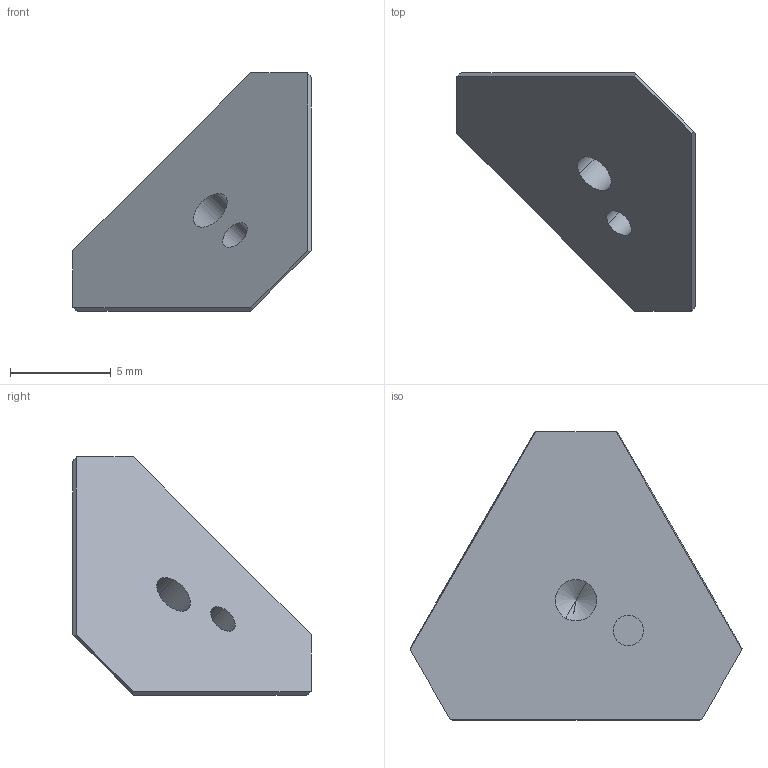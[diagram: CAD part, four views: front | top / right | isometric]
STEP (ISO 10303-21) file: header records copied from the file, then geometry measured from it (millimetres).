
FILE_DESCRIPTION (( 'STEP AP214' ), '1' );
FILE_NAME ('褒梓.STEP', '2026-07-03T01:31:44', ( '' ), ( '' ), 'SwSTEP 2.0', 'SolidWorks 2024', '' );
FILE_SCHEMA (( 'AUTOMOTIVE_DESIGN' ));
Length unit declared in the file: millimetre
Products named in the file (1): 角标
Bounding box: 11.82 x 11.82 x 11.82 mm (x, y, z)
Volume: 386.9 mm3; surface area: 435.6 mm2
Topology: 1 solids, 1 shells, 21 faces, 49 edges, 30 vertices
Faces by surface type: plane 15, cylinder 4, cone 2
Entity records: 600 total; most frequent: CARTESIAN_POINT 99, DIRECTION 99, ORIENTED_EDGE 94, EDGE_CURVE 47, LINE 39, VECTOR 39, VERTEX_POINT 30, AXIS2_PLACEMENT_3D 30
